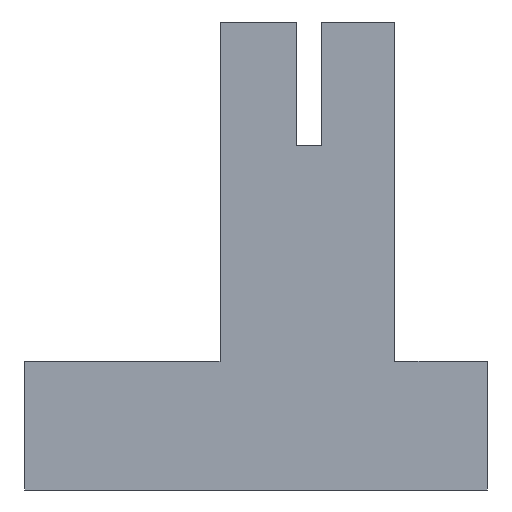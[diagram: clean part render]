
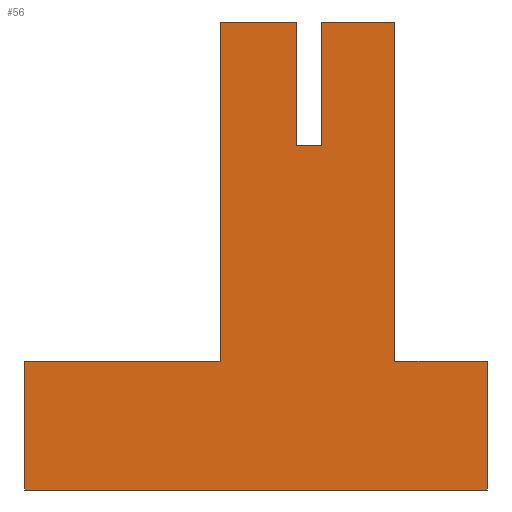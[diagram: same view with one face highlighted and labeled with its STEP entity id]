
A CAD part, left-side view. The second image highlights one B-rep face of the part: STEP entity #56.
In plain terms, the highlighted planar face has unit normal (-1, 0, 0).
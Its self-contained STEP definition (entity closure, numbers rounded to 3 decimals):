
#56=ADVANCED_FACE('',(#77),#78,.F.);
#77=FACE_OUTER_BOUND('',#106,.T.);
#78=PLANE('',#107);
#106=EDGE_LOOP('',(#160,#161,#162,#163,#164,#165,#166,#167,#168,#169,#170,#171));
#107=AXIS2_PLACEMENT_3D('',#172,#173,#174);
#160=ORIENTED_EDGE('',*,*,#256,.T.);
#161=ORIENTED_EDGE('',*,*,#247,.F.);
#162=ORIENTED_EDGE('',*,*,#255,.T.);
#163=ORIENTED_EDGE('',*,*,#250,.F.);
#164=ORIENTED_EDGE('',*,*,#252,.F.);
#165=ORIENTED_EDGE('',*,*,#241,.F.);
#166=ORIENTED_EDGE('',*,*,#257,.F.);
#167=ORIENTED_EDGE('',*,*,#258,.F.);
#168=ORIENTED_EDGE('',*,*,#259,.T.);
#169=ORIENTED_EDGE('',*,*,#260,.T.);
#170=ORIENTED_EDGE('',*,*,#261,.T.);
#171=ORIENTED_EDGE('',*,*,#262,.F.);
#172=CARTESIAN_POINT('',(125.,363.0,-165.0));
#173=DIRECTION('',(1.0,0.0,0.0));
#174=DIRECTION('',(0.0,0.0,-1.0));
#241=EDGE_CURVE('',#276,#279,#280,.T.);
#247=EDGE_CURVE('',#289,#285,#291,.T.);
#250=EDGE_CURVE('',#295,#297,#298,.T.);
#252=EDGE_CURVE('',#279,#295,#300,.T.);
#255=EDGE_CURVE('',#289,#297,#303,.T.);
#256=EDGE_CURVE('',#304,#285,#305,.T.);
#257=EDGE_CURVE('',#306,#276,#307,.T.);
#258=EDGE_CURVE('',#308,#306,#309,.T.);
#259=EDGE_CURVE('',#308,#310,#311,.T.);
#260=EDGE_CURVE('',#310,#312,#313,.T.);
#261=EDGE_CURVE('',#312,#314,#315,.T.);
#262=EDGE_CURVE('',#304,#314,#316,.T.);
#276=VERTEX_POINT('',#336);
#279=VERTEX_POINT('',#340);
#280=LINE('',#341,#342);
#285=VERTEX_POINT('',#349);
#289=VERTEX_POINT('',#355);
#291=LINE('',#358,#359);
#295=VERTEX_POINT('',#364);
#297=VERTEX_POINT('',#367);
#298=LINE('',#368,#369);
#300=LINE('',#372,#373);
#303=LINE('',#378,#379);
#304=VERTEX_POINT('',#380);
#305=LINE('',#381,#382);
#306=VERTEX_POINT('',#383);
#307=LINE('',#384,#385);
#308=VERTEX_POINT('',#386);
#309=LINE('',#387,#388);
#310=VERTEX_POINT('',#389);
#311=LINE('',#390,#391);
#312=VERTEX_POINT('',#392);
#313=LINE('',#393,#394);
#314=VERTEX_POINT('',#395);
#315=LINE('',#396,#397);
#316=LINE('',#398,#399);
#336=CARTESIAN_POINT('',(125.,346.0,-196.));
#340=CARTESIAN_POINT('',(125.,328.0,-196.));
#341=CARTESIAN_POINT('',(125.,373.0,-196.));
#342=VECTOR('',#433,1.0);
#349=CARTESIAN_POINT('',(125.,380.0,-196.));
#355=CARTESIAN_POINT('',(125.,418.0,-196.));
#358=CARTESIAN_POINT('',(125.,373.0,-196.));
#359=VECTOR('',#439,1.0);
#364=CARTESIAN_POINT('',(125.,328.0,-221.));
#367=CARTESIAN_POINT('',(125.,418.0,-221.));
#368=CARTESIAN_POINT('',(125.,373.0,-221.));
#369=VECTOR('',#442,1.0);
#372=CARTESIAN_POINT('',(125.,328.0,-208.5));
#373=VECTOR('',#444,1.0);
#378=CARTESIAN_POINT('',(125.,418.0,-208.5));
#379=VECTOR('',#447,1.0);
#380=CARTESIAN_POINT('',(125.,380.0,-130.0));
#381=CARTESIAN_POINT('',(125.,380.0,-165.0));
#382=VECTOR('',#448,1.0);
#383=CARTESIAN_POINT('',(125.,346.0,-130.0));
#384=CARTESIAN_POINT('',(125.,346.0,-165.0));
#385=VECTOR('',#449,1.0);
#386=CARTESIAN_POINT('',(125.,360.2,-130.0));
#387=CARTESIAN_POINT('',(125.,363.0,-130.0));
#388=VECTOR('',#450,1.0);
#389=CARTESIAN_POINT('',(125.,360.2,-154.0));
#390=CARTESIAN_POINT('',(125.,360.2,-152.775));
#391=VECTOR('',#451,1.0);
#392=CARTESIAN_POINT('',(125.,365.2,-154.0));
#393=CARTESIAN_POINT('',(125.,362.85,-154.0));
#394=VECTOR('',#452,1.0);
#395=CARTESIAN_POINT('',(125.,365.2,-130.0));
#396=CARTESIAN_POINT('',(125.,365.2,-152.775));
#397=VECTOR('',#453,1.0);
#398=CARTESIAN_POINT('',(125.,363.0,-130.0));
#399=VECTOR('',#454,1.0);
#433=DIRECTION('',(0.0,-1.0,0.0));
#439=DIRECTION('',(0.0,-1.0,0.0));
#442=DIRECTION('',(0.0,1.0,0.0));
#444=DIRECTION('',(0.0,0.0,-1.0));
#447=DIRECTION('',(0.0,0.0,-1.0));
#448=DIRECTION('',(0.0,0.0,-1.0));
#449=DIRECTION('',(0.0,0.0,-1.0));
#450=DIRECTION('',(0.0,-1.0,0.0));
#451=DIRECTION('',(0.0,0.0,-1.0));
#452=DIRECTION('',(0.0,1.0,0.0));
#453=DIRECTION('',(-0.0,0.0,1.0));
#454=DIRECTION('',(0.0,-1.0,0.0));
